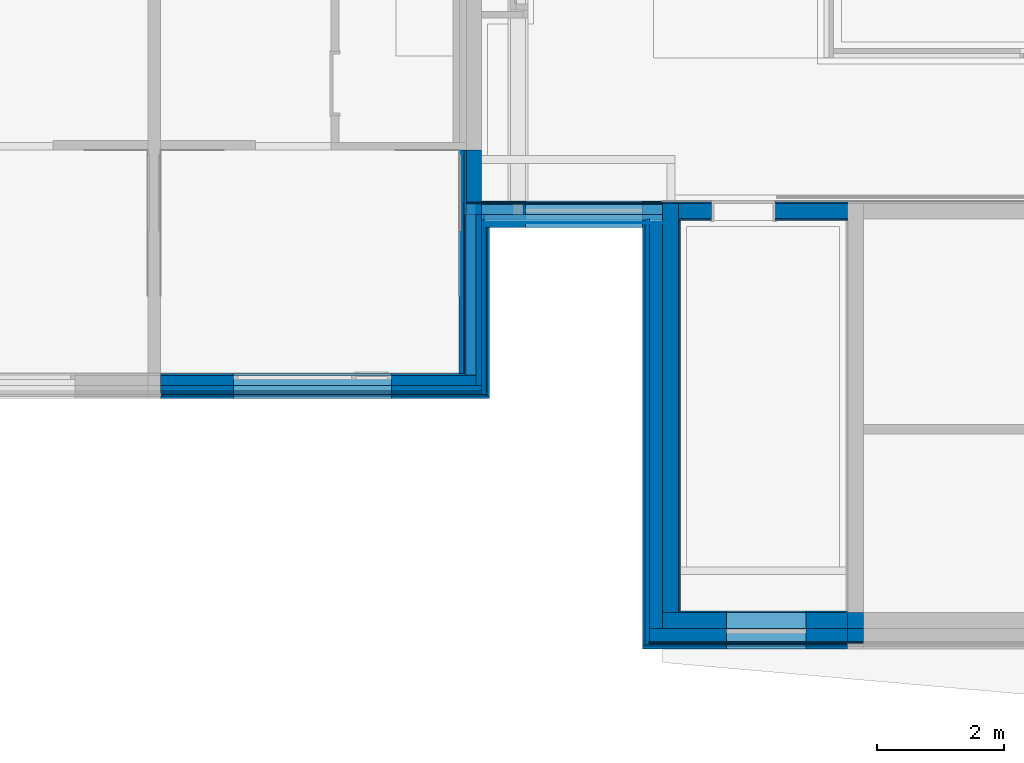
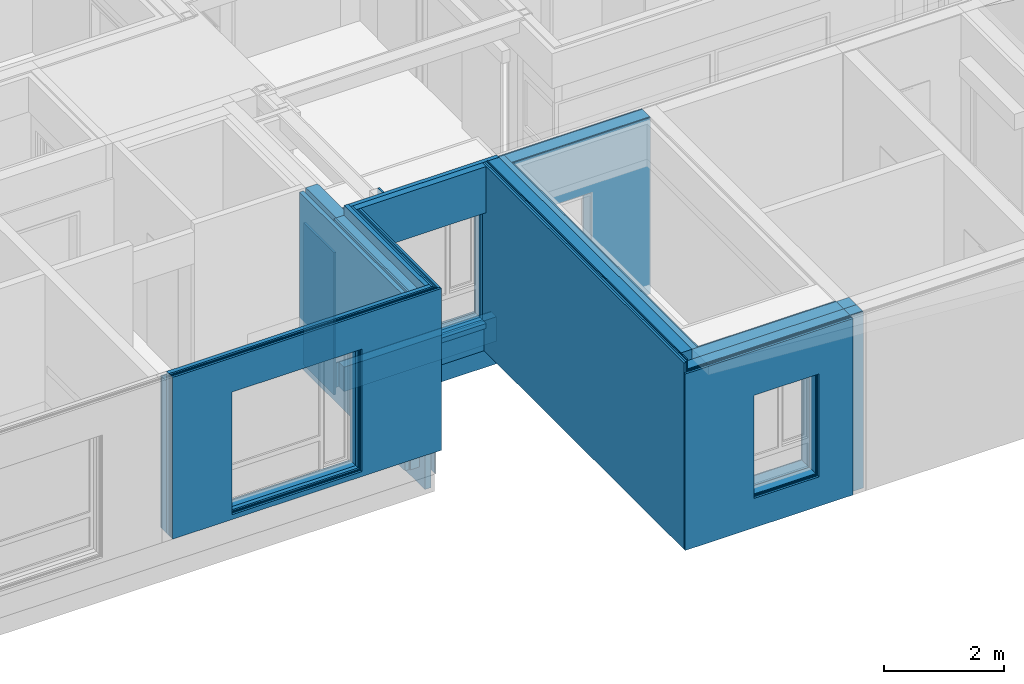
# One storey, part 21 of 207: 51 walls, 22 openings.
"""IFC4 building model written with IfcOpenShell, lengths in metres."""

from ifc_helpers import new_model, entity, si_unit, converted_unit, derived_unit, frame, frame_2d, origin, origin_with_axes, place, context, subcontext, project, spatial, polyline, rectangle, outline, extrude, material, element, save


model = new_model("IFC4")

# Units and contexts
model_context = context("Model", 3, precision=1e-05, world=origin())
body_context = subcontext(model_context, "Body", "Model", "MODEL_VIEW")
ifc_project = project(units=[si_unit("LENGTHUNIT", "METRE"), si_unit("AREAUNIT", "SQUARE_METRE"), si_unit("VOLUMEUNIT", "CUBIC_METRE"), si_unit("MASSUNIT", "GRAM", prefix="KILO"), converted_unit("PLANEANGLEUNIT", "DEGREE", entity("IfcPlaneAngleMeasure", 0.0174532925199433), si_unit("PLANEANGLEUNIT", "RADIAN"), dimensions=[0, 0, 0, 0, 0, 0, 0]), derived_unit("THERMALTRANSMITTANCEUNIT", [(si_unit("POWERUNIT", "WATT"), 1), (si_unit("THERMODYNAMICTEMPERATUREUNIT", "KELVIN"), -1), (si_unit("LENGTHUNIT", "METRE"), -2)]), derived_unit("VOLUMETRICFLOWRATEUNIT", [(si_unit("LENGTHUNIT", "METRE"), 3), (converted_unit("TIMEUNIT", "hour", entity("IfcTimeMeasure", 3600.0), si_unit("TIMEUNIT", "SECOND"), dimensions=[0, 0, 1, 0, 0, 0, 0]), -1), (si_unit("LENGTHUNIT", "METRE"), -1)])], contexts=[model_context])

# Site, building, storey
site_placement = place(None, origin())
site = spatial("IfcSite", under=ifc_project, at=site_placement, Name="Psychiatrie Neubau Wunstorf", CompositionType="ELEMENT")
building_placement = place(site_placement, origin())
building = spatial("IfcBuilding", under=site, at=building_placement, Name="Neubau H2 Stationsgebäude", CompositionType="ELEMENT")
storey_placement = place(building_placement, frame((0.0, 0.0, -0.2)))
storey = spatial("IfcBuildingStorey", under=building, at=storey_placement, Name="H2 Ebene 0", CompositionType="ELEMENT", Elevation=-0.2)

# Walls
ifc_material_1 = material(Name="WA-LB")
wall_1_placement = place(storey_placement, frame((34.889, 0.340499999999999, 0.5), z_axis=(0.0, 0.0, 1.0), x_axis=(0.0, -1.0, 0.0)))
element("IfcWall", 1, at=wall_1_placement, inside=storey, material=ifc_material_1, context=body_context, shape_type="SweptSolid", body=[
    extrude(rectangle(XDim=2.50449999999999, YDim=0.036, at=frame_2d((1.25224999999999, 0.018), x_axis=(1.0, 0.0))), origin_with_axes(), (0.0, 0.0, 1.0), 3.1),
])
ifc_material_2 = material(Name="WA-HD")
wall_2_placement = place(storey_placement, frame((34.925, 0.340499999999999, 0.5), z_axis=(0.0, 0.0, 1.0), x_axis=(0.0, -1.0, 0.0)))
element("IfcWall", 2, at=wall_2_placement, inside=storey, material=ifc_material_2, context=body_context, shape_type="SweptSolid", body=[
    extrude(rectangle(XDim=2.54049999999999, YDim=0.16, at=frame_2d((1.27024999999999, 0.08), x_axis=(1.0, 0.0))), origin_with_axes(), (0.0, 0.0, 1.0), 3.1),
])
ifc_material_3 = material(Name="WA-DL")
wall_3_placement = place(storey_placement, frame((35.085, 0.3405, 0.5), z_axis=(0.0, 0.0, 1.0), x_axis=(0.0, -1.0, 0.0)))
element("IfcWall", 3, at=wall_3_placement, inside=storey, material=ifc_material_3, context=body_context, shape_type="SweptSolid", body=[
    extrude(rectangle(XDim=2.70049999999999, YDim=0.08, at=frame_2d((1.35024999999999, 0.04), x_axis=(1.0, 0.0))), origin_with_axes(), (0.0, 0.0, 1.0), 3.3),
])
ifc_material_4 = material(Name="WA-TP")
wall_4_placement = place(storey_placement, frame((35.165, 0.260500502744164, 0.5), z_axis=(0.0, 0.0, 1.0), x_axis=(0.0, -1.0, 0.0)))
element("IfcWall", 4, at=wall_4_placement, inside=storey, material=ifc_material_4, context=body_context, shape_type="SweptSolid", body=[
    extrude(rectangle(XDim=2.70050050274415, YDim=0.036, at=frame_2d((1.35025025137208, 0.018), x_axis=(1.0, 0.0))), origin_with_axes(), (0.0, 0.0, 1.0), 3.3),
])
ifc_material_5 = material(Name="WA-KL")
wall_5_placement = place(storey_placement, frame((35.201, 0.134500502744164, 0.5), z_axis=(0.0, 0.0, 1.0), x_axis=(0.0, -1.0, 0.0)))
element("IfcWall", 5, at=wall_5_placement, inside=storey, material=ifc_material_5, context=body_context, shape_type="SweptSolid", body=[
    extrude(rectangle(XDim=2.61050050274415, YDim=0.024, at=frame_2d((1.30525025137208, 0.012), x_axis=(1.0, 0.0))), origin_with_axes(), (0.0, 0.0, 1.0), 3.3),
])
ifc_material_6 = material(Name="WA-TL")
wall_6_placement = place(storey_placement, frame((35.225, 0.134500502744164, 0.5), z_axis=(0.0, 0.0, 1.0), x_axis=(0.0, -1.0, 0.0)))
element("IfcWall", 6, at=wall_6_placement, inside=storey, material=ifc_material_6, context=body_context, shape_type="SweptSolid", body=[
    extrude(rectangle(XDim=2.63450050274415, YDim=0.024, at=frame_2d((1.31725025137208, 0.012), x_axis=(1.0, 0.0))), origin_with_axes(), (0.0, 0.0, 1.0), 3.3),
])
ifc_material_7 = material(Name="WA-HS")
wall_7_placement = place(storey_placement, frame((35.249, 0.134500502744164, 0.5), z_axis=(0.0, 0.0, 1.0), x_axis=(0.0, -1.0, 0.0)))
element("IfcWall", 7, at=wall_7_placement, inside=storey, material=ifc_material_7, context=body_context, shape_type="SweptSolid", body=[
    extrude(rectangle(XDim=2.65850050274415, YDim=0.042, at=frame_2d((1.32925025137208, 0.021), x_axis=(1.0, 0.0))), origin_with_axes(), (0.0, 0.0, 1.0), 3.3),
])

# Wall, opening
ifc_material_8 = material(Name="WA-LB")
wall_8_placement = place(storey_placement, frame((38.03, 0.549, 0.5), z_axis=(0.0, 0.0, 1.0), x_axis=(-1.0, 0.0, 0.0)))
wall_8 = element("IfcWall", 8, at=wall_8_placement, inside=storey, material=ifc_material_8, context=body_context, shape_type="SweptSolid", body=[
    extrude(rectangle(XDim=2.8655, YDim=0.0125, at=frame_2d((1.43275, 0.00625), x_axis=(1.0, 0.0))), origin_with_axes(), (0.0, 0.0, 1.0), 3.1),
])
opening_1_placement = place(wall_8_placement, frame((2.16900498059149, 0.0125, 0.1), z_axis=(0.0, -1.0, 0.0), x_axis=(0.0, 0.0, 1.0)))
element("IfcOpeningElement", 9, at=opening_1_placement, cuts=wall_8, Name="Fensteröffnung", ObjectType="Opening", context=body_context, shape_type="SweptSolid", body=[
    extrude(outline(polyline([(2.26, 1.848005), (2.26, 0.0), (0.0, 0.0), (0.0, 1.848005), (2.26, 1.848005)])), origin_with_axes(), (0.0, 0.0, 1.0), 0.0125),
])

ifc_material_9 = material(Name="WA-LB")
wall_9_placement = place(storey_placement, frame((38.03, 0.5365, 0.5), z_axis=(0.0, 0.0, 1.0), x_axis=(-1.0, 0.0, 0.0)))
wall_9 = element("IfcWall", 10, at=wall_9_placement, inside=storey, material=ifc_material_9, context=body_context, shape_type="SweptSolid", body=[
    extrude(rectangle(XDim=2.8655, YDim=0.036, at=frame_2d((1.43275, 0.018), x_axis=(1.0, 0.0))), origin_with_axes(), (0.0, 0.0, 1.0), 3.1),
])
opening_2_placement = place(wall_9_placement, frame((2.16900498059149, 0.036, 0.1), z_axis=(0.0, -1.0, 0.0), x_axis=(0.0, 0.0, 1.0)))
element("IfcOpeningElement", 11, at=opening_2_placement, cuts=wall_9, Name="Fensteröffnung", ObjectType="Opening", context=body_context, shape_type="SweptSolid", body=[
    extrude(outline(polyline([(2.26, 1.848005), (2.26, 0.0), (0.0, 0.0), (0.0, 1.848005), (2.26, 1.848005)])), origin_with_axes(), (0.0, 0.0, 1.0), 0.036),
])

ifc_material_10 = material(Name="WA-HD")
wall_10_placement = place(storey_placement, frame((38.03, 0.5005, 0.5), z_axis=(0.0, 0.0, 1.0), x_axis=(-1.0, 0.0, 0.0)))
wall_10 = element("IfcWall", 12, at=wall_10_placement, inside=storey, material=ifc_material_10, context=body_context, shape_type="SweptSolid", body=[
    extrude(rectangle(XDim=2.8655, YDim=0.16, at=frame_2d((1.43275, 0.08), x_axis=(1.0, 0.0))), origin_with_axes(), (0.0, 0.0, 1.0), 3.1),
])
opening_3_placement = place(wall_10_placement, frame((2.16900498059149, 0.16, 0.1), z_axis=(0.0, -1.0, 0.0), x_axis=(0.0, 0.0, 1.0)))
element("IfcOpeningElement", 13, at=opening_3_placement, cuts=wall_10, Name="Fensteröffnung", ObjectType="Opening", context=body_context, shape_type="SweptSolid", body=[
    extrude(outline(polyline([(2.26, 1.848005), (2.26, 0.0), (0.0, 0.0), (0.0, 1.848005), (2.26, 1.848005)])), origin_with_axes(), (0.0, 0.0, 1.0), 0.16),
])

ifc_material_11 = material(Name="WA-DL")
wall_11_placement = place(storey_placement, frame((38.03, 0.3405, 0.5), z_axis=(0.0, 0.0, 1.0), x_axis=(-1.0, 0.0, 0.0)))
wall_11 = element("IfcWall", 14, at=wall_11_placement, inside=storey, material=ifc_material_11, context=body_context, shape_type="SweptSolid", body=[
    extrude(outline(polyline([(-2.865, -0.0799994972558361), (-0.69599501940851, -0.0799994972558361), (-0.69599501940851, -0.0794958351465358), (-0.49999501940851, -0.0794958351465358), (-0.49999501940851, -0.0799994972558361), (0.0, -0.0799994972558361), (0.0, 0.0), (-2.634, 0.0), (-2.634, -0.0144994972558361), (-2.655, -0.0144994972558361), (-2.655, 0.0), (-2.865, 0.0), (-2.865, -0.0799994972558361)])), frame((2.865, 0.0799994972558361, 0.0), z_axis=(0.0, 0.0, 1.0), x_axis=(1.0, 0.0, 0.0)), (0.0, 0.0, 1.0), 3.3),
])
opening_4_placement = place(wall_11_placement, frame((2.16900498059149, 0.0799994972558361, 0.1), z_axis=(0.0, -1.0, 0.0), x_axis=(0.0, 0.0, 1.0)))
element("IfcOpeningElement", 15, at=opening_4_placement, cuts=wall_11, Name="Fensteröffnung", ObjectType="Opening", context=body_context, shape_type="SweptSolid", body=[
    extrude(outline(polyline([(2.26, 1.848005), (2.26, 0.0), (0.0, 0.0), (0.0, 1.848005), (2.26, 1.848005)])), origin_with_axes(), (0.0, 0.0, 1.0), 0.0799994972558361),
])

ifc_material_12 = material(Name="WA-LB")
wall_12_placement = place(storey_placement, frame((37.7090000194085, 0.260500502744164, 0.5), z_axis=(0.0, 0.0, 1.0), x_axis=(-1.0, 0.0, 0.0)))
wall_12 = element("IfcWall", 16, at=wall_12_placement, inside=storey, material=ifc_material_12, context=body_context, shape_type="SweptSolid", body=[
    extrude(rectangle(XDim=2.50800001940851, YDim=0.126, at=frame_2d((1.25400000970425, 0.063), x_axis=(1.0, 0.0))), origin_with_axes(), (0.0, 0.0, 1.0), 3.3),
])
opening_5_placement = place(wall_12_placement, frame((1.848005, 0.126, 0.1), z_axis=(0.0, -1.0, 0.0), x_axis=(0.0, 0.0, 1.0)))
element("IfcOpeningElement", 17, at=opening_5_placement, cuts=wall_12, Name="Fensteröffnung", ObjectType="Opening", context=body_context, shape_type="SweptSolid", body=[
    extrude(outline(polyline([(2.26, 1.848005), (2.26, 0.0), (0.0, 0.0), (0.0, 1.848005), (2.26, 1.848005)])), origin_with_axes(), (0.0, 0.0, 1.0), 0.126),
])

# Wall
ifc_material_13 = material(Name="WI-GKF")
wall_13_placement = place(storey_placement, frame((35.8249950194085, 0.4999963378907, 0.5), z_axis=(0.0, 0.0, 1.0), x_axis=(0.0, -1.0, 0.0)))
element("IfcWall", 18, at=wall_13_placement, inside=storey, material=ifc_material_13, context=body_context, shape_type="SweptSolid", body=[
    extrude(rectangle(XDim=0.16, YDim=0.036, at=frame_2d((0.08, 0.018), x_axis=(1.0, 0.0))), origin_with_axes(), (0.0, 0.0, 1.0), 3.3),
])

# Wall, opening
ifc_material_14 = material(Name="WA-LB")
wall_14_placement = place(storey_placement, frame((34.925, -2.16399999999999, 0.5), z_axis=(0.0, 0.0, 1.0), x_axis=(-1.0, 9.42481556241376e-17, 0.0)))
wall_14 = element("IfcWall", 19, at=wall_14_placement, inside=storey, material=ifc_material_14, context=body_context, shape_type="SweptSolid", body=[
    extrude(rectangle(XDim=4.825, YDim=0.036, at=frame_2d((2.4125, 0.018), x_axis=(1.0, 0.0))), origin_with_axes(), (0.0, 0.0, 1.0), 3.1),
])
opening_6_placement = place(wall_14_placement, frame((1.175, 0.0, 0.1), z_axis=(0.0, 1.0, 0.0), x_axis=(0.0, 0.0, 1.0)))
element("IfcOpeningElement", 20, at=opening_6_placement, cuts=wall_14, Name="Fensteröffnung", ObjectType="Opening", context=body_context, shape_type="SweptSolid", body=[
    extrude(outline(polyline([(2.5, 2.5), (2.5, 0.0), (0.0, 0.0), (0.0, 2.5), (2.5, 2.5)])), origin_with_axes(), (0.0, 0.0, 1.0), 0.036),
])

ifc_material_15 = material(Name="WA-HD")
wall_15_placement = place(storey_placement, frame((35.085, -2.19999999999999, 0.5), z_axis=(0.0, 0.0, 1.0), x_axis=(-1.0, 9.1223139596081e-17, 0.0)))
wall_15 = element("IfcWall", 21, at=wall_15_placement, inside=storey, material=ifc_material_15, context=body_context, shape_type="SweptSolid", body=[
    extrude(rectangle(XDim=4.985, YDim=0.16, at=frame_2d((2.4925, 0.08), x_axis=(1.0, 0.0))), origin_with_axes(), (0.0, 0.0, 1.0), 3.1),
])
opening_7_placement = place(wall_15_placement, frame((1.335, 0.0, 0.1), z_axis=(0.0, 1.0, 0.0), x_axis=(0.0, 0.0, 1.0)))
element("IfcOpeningElement", 22, at=opening_7_placement, cuts=wall_15, Name="Fensteröffnung", ObjectType="Opening", context=body_context, shape_type="SweptSolid", body=[
    extrude(outline(polyline([(2.5, 2.5), (2.5, 0.0), (0.0, 0.0), (0.0, 2.5), (2.5, 2.5)])), origin_with_axes(), (0.0, 0.0, 1.0), 0.16),
])

ifc_material_16 = material(Name="WA-DL")
wall_16_placement = place(storey_placement, frame((35.165, -2.35999999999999, 0.5), z_axis=(0.0, 0.0, 1.0), x_axis=(-1.0, 8.97823002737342e-17, 0.0)))
wall_16 = element("IfcWall", 23, at=wall_16_placement, inside=storey, material=ifc_material_16, context=body_context, shape_type="SweptSolid", body=[
    extrude(rectangle(XDim=5.065, YDim=0.08, at=frame_2d((2.5325, 0.04), x_axis=(1.0, 0.0))), origin_with_axes(), (0.0, 0.0, 1.0), 3.3),
])
opening_8_placement = place(wall_16_placement, frame((1.415, 0.0, 0.1), z_axis=(0.0, 1.0, 0.0), x_axis=(0.0, 0.0, 1.0)))
element("IfcOpeningElement", 24, at=opening_8_placement, cuts=wall_16, Name="Fensteröffnung", ObjectType="Opening", context=body_context, shape_type="SweptSolid", body=[
    extrude(outline(polyline([(2.5, 2.5), (2.5, 0.0), (0.0, 0.0), (0.0, 2.5), (2.5, 2.5)])), origin_with_axes(), (0.0, 0.0, 1.0), 0.08),
])

ifc_material_17 = material(Name="WA-TP")
wall_17_placement = place(storey_placement, frame((35.201, -2.43999999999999, 0.5), z_axis=(0.0, 0.0, 1.0), x_axis=(-1.0, 8.91486671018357e-17, 0.0)))
wall_17 = element("IfcWall", 25, at=wall_17_placement, inside=storey, material=ifc_material_17, context=body_context, shape_type="SweptSolid", body=[
    extrude(rectangle(XDim=5.101, YDim=0.036, at=frame_2d((2.5505, 0.018), x_axis=(1.0, 0.0))), origin_with_axes(), (0.0, 0.0, 1.0), 3.3),
])
opening_9_placement = place(wall_17_placement, frame((1.451, 0.0, 0.1), z_axis=(0.0, 1.0, 0.0), x_axis=(0.0, 0.0, 1.0)))
element("IfcOpeningElement", 26, at=opening_9_placement, cuts=wall_17, Name="Fensteröffnung", ObjectType="Opening", context=body_context, shape_type="SweptSolid", body=[
    extrude(outline(polyline([(2.5, 2.5), (2.5, 0.0), (0.0, 0.0), (0.0, 2.5), (2.5, 2.5)])), origin_with_axes(), (0.0, 0.0, 1.0), 0.036),
])

ifc_material_18 = material(Name="WA-KL")
wall_18_placement = place(storey_placement, frame((35.225, -2.47599999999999, 0.5), z_axis=(0.0, 0.0, 1.0), x_axis=(-1.0, 8.8731190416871e-17, 0.0)))
wall_18 = element("IfcWall", 27, at=wall_18_placement, inside=storey, material=ifc_material_18, context=body_context, shape_type="SweptSolid", body=[
    extrude(rectangle(XDim=5.125, YDim=0.024, at=frame_2d((2.5625, 0.012), x_axis=(1.0, 0.0))), origin_with_axes(), (0.0, 0.0, 1.0), 3.3),
])
opening_10_placement = place(wall_18_placement, frame((1.475, 0.0, 0.1), z_axis=(0.0, 1.0, 0.0), x_axis=(0.0, 0.0, 1.0)))
element("IfcOpeningElement", 28, at=opening_10_placement, cuts=wall_18, Name="Fensteröffnung", ObjectType="Opening", context=body_context, shape_type="SweptSolid", body=[
    extrude(outline(polyline([(2.5, 2.5), (2.5, 0.0), (0.0, 0.0), (0.0, 2.5), (2.5, 2.5)])), origin_with_axes(), (0.0, 0.0, 1.0), 0.024),
])

ifc_material_19 = material(Name="WA-TL")
wall_19_placement = place(storey_placement, frame((35.249, -2.49999999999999, 0.5), z_axis=(0.0, 0.0, 1.0), x_axis=(-1.0, 8.83176055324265e-17, 0.0)))
wall_19 = element("IfcWall", 29, at=wall_19_placement, inside=storey, material=ifc_material_19, context=body_context, shape_type="SweptSolid", body=[
    extrude(rectangle(XDim=5.149, YDim=0.024, at=frame_2d((2.5745, 0.012), x_axis=(1.0, 0.0))), origin_with_axes(), (0.0, 0.0, 1.0), 3.3),
])
opening_11_placement = place(wall_19_placement, frame((1.499, 0.0, 0.1), z_axis=(0.0, 1.0, 0.0), x_axis=(0.0, 0.0, 1.0)))
element("IfcOpeningElement", 30, at=opening_11_placement, cuts=wall_19, Name="Fensteröffnung", ObjectType="Opening", context=body_context, shape_type="SweptSolid", body=[
    extrude(outline(polyline([(2.5, 2.5), (2.5, 0.0), (0.0, 0.0), (0.0, 2.5), (2.5, 2.5)])), origin_with_axes(), (0.0, 0.0, 1.0), 0.024),
])

ifc_material_20 = material(Name="WA-HS")
wall_20_placement = place(storey_placement, frame((35.291, -2.52399999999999, 0.5), z_axis=(0.0, 0.0, 1.0), x_axis=(-1.0, 8.76030342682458e-17, 0.0)))
wall_20 = element("IfcWall", 31, at=wall_20_placement, inside=storey, material=ifc_material_20, context=body_context, shape_type="SweptSolid", body=[
    extrude(rectangle(XDim=5.191, YDim=0.042, at=frame_2d((2.5955, 0.021), x_axis=(1.0, 0.0))), origin_with_axes(), (0.0, 0.0, 1.0), 3.3),
])
opening_12_placement = place(wall_20_placement, frame((1.541, 0.0, 0.1), z_axis=(0.0, 1.0, 0.0), x_axis=(0.0, 0.0, 1.0)))
element("IfcOpeningElement", 32, at=opening_12_placement, cuts=wall_20, Name="Fensteröffnung", ObjectType="Opening", context=body_context, shape_type="SweptSolid", body=[
    extrude(outline(polyline([(2.5, 2.5), (2.5, 0.0), (0.0, 0.0), (0.0, 2.5), (2.5, 2.5)])), origin_with_axes(), (0.0, 0.0, 1.0), 0.042),
])

# Walls
ifc_material_21 = material(Name="WA-STB")
wall_21_placement = place(storey_placement, frame((41.2, -5.945000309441, 0.0), z_axis=(0.0, 0.0, 1.0), x_axis=(-1.0, 0.0, 0.0)))
element("IfcWall", 33, at=wall_21_placement, inside=storey, material=ifc_material_21, context=body_context, shape_type="SweptSolid", body=[
    extrude(rectangle(XDim=0.25, YDim=0.25, at=frame_2d((0.125, 0.125), x_axis=(1.0, 0.0))), origin_with_axes(), (0.0, 0.0, 1.0), 3.6),
])
ifc_material_22 = material(Name="WA-DL")
wall_22_placement = place(storey_placement, frame((41.2, -6.195000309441, 0.0), z_axis=(0.0, 0.0, 1.0), x_axis=(-1.0, 0.0, 0.0)))
element("IfcWall", 34, at=wall_22_placement, inside=storey, material=ifc_material_22, context=body_context, shape_type="SweptSolid", body=[
    extrude(rectangle(XDim=0.25, YDim=0.21, at=frame_2d((0.125, 0.105), x_axis=(1.0, 0.0))), origin_with_axes(), (0.0, 0.0, 1.0), 3.6),
])
ifc_material_23 = material(Name="WA-LB")
wall_23_placement = place(storey_placement, frame((41.2, -6.405000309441, 0.0), z_axis=(0.0, 0.0, 1.0), x_axis=(-1.0, 0.0, 0.0)))
element("IfcWall", 35, at=wall_23_placement, inside=storey, material=ifc_material_23, context=body_context, shape_type="SweptSolid", body=[
    extrude(rectangle(XDim=0.25, YDim=0.021, at=frame_2d((0.125, 0.0105), x_axis=(1.0, 0.0))), origin_with_axes(), (0.0, 0.0, 1.0), 3.6),
])
ifc_material_24 = material(Name="WI-LB")
wall_24_placement = place(storey_placement, frame((38.304, -5.921000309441, 0.0), z_axis=(0.0, 0.0, 1.0), x_axis=(0.0, 1.0, 0.0)))
element("IfcWall", 36, at=wall_24_placement, inside=storey, material=ifc_material_24, context=body_context, shape_type="SweptSolid", body=[
    extrude(rectangle(XDim=6.172000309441, YDim=0.024, at=frame_2d((3.0860001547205, 0.012), x_axis=(1.0, 0.0))), origin_with_axes(), (0.0, 0.0, 1.0), 3.6),
])
ifc_material_25 = material(Name="WA-STB")
wall_25_placement = place(storey_placement, frame((38.28, -5.945000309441, 0.0), z_axis=(0.0, 0.0, 1.0), x_axis=(0.0, 1.0, 0.0)))
element("IfcWall", 37, at=wall_25_placement, inside=storey, material=ifc_material_25, context=body_context, shape_type="SweptSolid", body=[
    extrude(rectangle(XDim=6.470000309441, YDim=0.25, at=frame_2d((3.2350001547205, 0.125), x_axis=(1.0, 0.0))), origin_with_axes(), (0.0, 0.0, 1.0), 3.6),
])
ifc_material_26 = material(Name="WA-DL")
wall_26_placement = place(storey_placement, frame((38.03, -6.195000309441, 0.0), z_axis=(0.0, 0.0, 1.0), x_axis=(0.0, 1.0, 0.0)))
element("IfcWall", 38, at=wall_26_placement, inside=storey, material=ifc_material_26, context=body_context, shape_type="SweptSolid", body=[
    extrude(outline(polyline([(0.0, -0.21), (6.446000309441, -0.21), (6.45550081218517, -0.21), (6.45550081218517, 0.0), (0.0, 0.0), (0.0, -0.21)])), frame((0.0, 0.21, 0.0), z_axis=(0.0, 0.0, 1.0), x_axis=(1.0, 0.0, 0.0)), (0.0, 0.0, 1.0), 3.8),
])
ifc_material_27 = material(Name="WA-LB")
wall_27_placement = place(storey_placement, frame((37.82, -6.405000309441, 0.5), z_axis=(0.0, 0.0, 1.0), x_axis=(0.0, 1.0, 0.0)))
element("IfcWall", 39, at=wall_27_placement, inside=storey, material=ifc_material_27, context=body_context, shape_type="SweptSolid", body=[
    extrude(outline(polyline([(0.0, -0.021), (6.66550081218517, -0.021), (6.680000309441, -0.021), (6.680000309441, 0.0), (0.0, 0.0), (0.0, -0.021)])), frame((0.0, 0.021, 0.0), z_axis=(0.0, 0.0, 1.0), x_axis=(1.0, 0.0, 0.0)), (0.0, 0.0, 1.0), 3.3),
])
ifc_material_28 = material(Name="WA-KL")
wall_28_placement = place(storey_placement, frame((37.799, -6.426000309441, 0.0), z_axis=(0.0, 0.0, 1.0), x_axis=(0.0, 1.0, 0.0)))
element("IfcWall", 40, at=wall_28_placement, inside=storey, material=ifc_material_28, context=body_context, shape_type="SweptSolid", body=[
    extrude(rectangle(XDim=6.68650081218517, YDim=0.015, at=frame_2d((3.34325040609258, 0.0075), x_axis=(1.0, 0.0))), origin_with_axes(), (0.0, 0.0, 1.0), 3.8),
])
ifc_material_29 = material(Name="WA-TL")
wall_29_placement = place(storey_placement, frame((37.784, -6.450000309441, 0.0), z_axis=(0.0, 0.0, 1.0), x_axis=(0.0, 1.0, 0.0)))
element("IfcWall", 41, at=wall_29_placement, inside=storey, material=ifc_material_29, context=body_context, shape_type="SweptSolid", body=[
    extrude(rectangle(XDim=6.71050081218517, YDim=0.033, at=frame_2d((3.35525040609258, 0.0165), x_axis=(1.0, 0.0))), origin_with_axes(), (0.0, 0.0, 1.0), 3.8),
])
ifc_material_30 = material(Name="WA-HS")
wall_30_placement = place(storey_placement, frame((37.751, -6.474000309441, 0.0), z_axis=(0.0, 0.0, 1.0), x_axis=(0.0, 1.0, 0.0)))
element("IfcWall", 42, at=wall_30_placement, inside=storey, material=ifc_material_30, context=body_context, shape_type="SweptSolid", body=[
    extrude(outline(polyline([(0.0, -0.0419999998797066), (6.73450081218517, -0.0419999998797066), (6.73450081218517, -1.92882143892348e-08), (0.0, 0.0), (0.0, -0.0419999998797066)])), frame((0.0, 0.0419999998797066, 0.0), z_axis=(0.0, 0.0, 1.0), x_axis=(1.0, 0.0, 0.0)), (0.0, 0.0, 1.0), 3.8),
])

# Wall, opening
ifc_material_31 = material(Name="WI-LB")
wall_31_placement = place(storey_placement, frame((40.95, -5.921000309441, 0.0), z_axis=(0.0, 0.0, 1.0), x_axis=(-1.0, 0.0, 0.0)))
wall_31 = element("IfcWall", 43, at=wall_31_placement, inside=storey, material=ifc_material_31, context=body_context, shape_type="SweptSolid", body=[
    extrude(rectangle(XDim=2.66999999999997, YDim=0.024, at=frame_2d((1.33499999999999, 0.012), x_axis=(1.0, 0.0))), origin_with_axes(), (0.0, 0.0, 1.0), 3.6),
])
opening_13_placement = place(wall_31_placement, frame((1.91000000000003, 0.024, 0.6), z_axis=(0.0, -1.0, 0.0), x_axis=(0.0, 0.0, 1.0)))
element("IfcOpeningElement", 44, at=opening_13_placement, cuts=wall_31, Name="Fensteröffnung", ObjectType="Opening", context=body_context, shape_type="SweptSolid", body=[
    extrude(outline(polyline([(2.1, 1.25), (2.1, 0.0), (0.0, 0.0), (0.0, 1.25), (2.1, 1.25)])), origin_with_axes(), (0.0, 0.0, 1.0), 0.024),
])

ifc_material_32 = material(Name="WA-STB")
wall_32_placement = place(storey_placement, frame((40.95, -5.945000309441, 0.0), z_axis=(0.0, 0.0, 1.0), x_axis=(-1.0, 0.0, 0.0)))
wall_32 = element("IfcWall", 45, at=wall_32_placement, inside=storey, material=ifc_material_32, context=body_context, shape_type="SweptSolid", body=[
    extrude(rectangle(XDim=2.91999999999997, YDim=0.25, at=frame_2d((1.45999999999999, 0.125), x_axis=(1.0, 0.0))), origin_with_axes(), (0.0, 0.0, 1.0), 3.6),
])
opening_14_placement = place(wall_32_placement, frame((1.91000000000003, 0.25, 0.6), z_axis=(0.0, -1.0, 0.0), x_axis=(0.0, 0.0, 1.0)))
element("IfcOpeningElement", 46, at=opening_14_placement, cuts=wall_32, Name="Fensteröffnung", ObjectType="Opening", context=body_context, shape_type="SweptSolid", body=[
    extrude(outline(polyline([(2.1, 1.25), (2.1, 0.0), (0.0, 0.0), (0.0, 1.25), (2.1, 1.25)])), origin_with_axes(), (0.0, 0.0, 1.0), 0.25),
])

ifc_material_33 = material(Name="WA-DL")
wall_33_placement = place(storey_placement, frame((40.95, -6.195000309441, 0.0), z_axis=(0.0, 0.0, 1.0), x_axis=(-1.0, 0.0, 0.0)))
wall_33 = element("IfcWall", 47, at=wall_33_placement, inside=storey, material=ifc_material_33, context=body_context, shape_type="SweptSolid", body=[
    extrude(rectangle(XDim=3.12999999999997, YDim=0.21, at=frame_2d((1.56499999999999, 0.105), x_axis=(1.0, 0.0))), origin_with_axes(), (0.0, 0.0, 1.0), 3.6),
])
opening_15_placement = place(wall_33_placement, frame((1.91000000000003, 0.21, 0.6), z_axis=(0.0, -1.0, 0.0), x_axis=(0.0, 0.0, 1.0)))
element("IfcOpeningElement", 48, at=opening_15_placement, cuts=wall_33, Name="Fensteröffnung", ObjectType="Opening", context=body_context, shape_type="SweptSolid", body=[
    extrude(outline(polyline([(2.1, 1.25), (2.1, 0.0), (0.0, 0.0), (0.0, 1.25), (2.1, 1.25)])), origin_with_axes(), (0.0, 0.0, 1.0), 0.21),
])

ifc_material_34 = material(Name="WA-LB")
wall_34_placement = place(storey_placement, frame((40.95, -6.405000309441, 0.0), z_axis=(0.0, 0.0, 1.0), x_axis=(-1.0, 0.0, 0.0)))
wall_34 = element("IfcWall", 49, at=wall_34_placement, inside=storey, material=ifc_material_34, context=body_context, shape_type="SweptSolid", body=[
    extrude(rectangle(XDim=3.15099999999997, YDim=0.021, at=frame_2d((1.57549999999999, 0.0105), x_axis=(1.0, 0.0))), origin_with_axes(), (0.0, 0.0, 1.0), 3.6),
])
opening_16_placement = place(wall_34_placement, frame((1.91000000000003, 0.021, 0.6), z_axis=(0.0, -1.0, 0.0), x_axis=(0.0, 0.0, 1.0)))
element("IfcOpeningElement", 50, at=opening_16_placement, cuts=wall_34, Name="Fensteröffnung", ObjectType="Opening", context=body_context, shape_type="SweptSolid", body=[
    extrude(outline(polyline([(2.1, 1.25), (2.1, 0.0), (0.0, 0.0), (0.0, 1.25), (2.1, 1.25)])), origin_with_axes(), (0.0, 0.0, 1.0), 0.021),
])

ifc_material_35 = material(Name="WA-KL")
wall_35_placement = place(storey_placement, frame((40.95, -6.426000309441, 0.0), z_axis=(0.0, 0.0, 1.0), x_axis=(-1.0, 0.0, 0.0)))
wall_35 = element("IfcWall", 51, at=wall_35_placement, inside=storey, material=ifc_material_35, context=body_context, shape_type="SweptSolid", body=[
    extrude(rectangle(XDim=3.16599999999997, YDim=0.024, at=frame_2d((1.58299999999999, 0.012), x_axis=(1.0, 0.0))), origin_with_axes(), (0.0, 0.0, 1.0), 3.6),
])
opening_17_placement = place(wall_35_placement, frame((1.91000000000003, 0.024, 0.6), z_axis=(0.0, -1.0, 0.0), x_axis=(0.0, 0.0, 1.0)))
element("IfcOpeningElement", 52, at=opening_17_placement, cuts=wall_35, Name="Fensteröffnung", ObjectType="Opening", context=body_context, shape_type="SweptSolid", body=[
    extrude(outline(polyline([(2.1, 1.25), (2.1, 0.0), (0.0, 0.0), (0.0, 1.25), (2.1, 1.25)])), origin_with_axes(), (0.0, 0.0, 1.0), 0.024),
])

ifc_material_36 = material(Name="WA-TL")
wall_36_placement = place(storey_placement, frame((40.95, -6.450000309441, 0.0), z_axis=(0.0, 0.0, 1.0), x_axis=(-1.0, 0.0, 0.0)))
wall_36 = element("IfcWall", 53, at=wall_36_placement, inside=storey, material=ifc_material_36, context=body_context, shape_type="SweptSolid", body=[
    extrude(rectangle(XDim=3.19899999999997, YDim=0.024, at=frame_2d((1.59949999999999, 0.012), x_axis=(1.0, 0.0))), origin_with_axes(), (0.0, 0.0, 1.0), 3.6),
])
opening_18_placement = place(wall_36_placement, frame((1.91000000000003, 0.024, 0.6), z_axis=(0.0, -1.0, 0.0), x_axis=(0.0, 0.0, 1.0)))
element("IfcOpeningElement", 54, at=opening_18_placement, cuts=wall_36, Name="Fensteröffnung", ObjectType="Opening", context=body_context, shape_type="SweptSolid", body=[
    extrude(outline(polyline([(2.1, 1.25), (2.1, 0.0), (0.0, 0.0), (0.0, 1.25), (2.1, 1.25)])), origin_with_axes(), (0.0, 0.0, 1.0), 0.024),
])

ifc_material_37 = material(Name="WA-HS")
wall_37_placement = place(storey_placement, frame((40.95, -6.474000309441, 0.0), z_axis=(0.0, 0.0, 1.0), x_axis=(-1.0, 0.0, 0.0)))
wall_37 = element("IfcWall", 55, at=wall_37_placement, inside=storey, material=ifc_material_37, context=body_context, shape_type="SweptSolid", body=[
    extrude(rectangle(XDim=3.24099999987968, YDim=0.042, at=frame_2d((1.62049999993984, 0.021), x_axis=(1.0, 0.0))), origin_with_axes(), (0.0, 0.0, 1.0), 3.6),
])
opening_19_placement = place(wall_37_placement, frame((1.91000000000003, 0.042, 0.6), z_axis=(0.0, -1.0, 0.0), x_axis=(0.0, 0.0, 1.0)))
element("IfcOpeningElement", 56, at=opening_19_placement, cuts=wall_37, Name="Fensteröffnung", ObjectType="Opening", context=body_context, shape_type="SweptSolid", body=[
    extrude(outline(polyline([(2.1, 1.25), (2.1, 0.0), (0.0, 0.0), (0.0, 1.25), (2.1, 1.25)])), origin_with_axes(), (0.0, 0.0, 1.0), 0.042),
])

# Walls
ifc_material_38 = material(Name="WA-LB")
wall_38_placement = place(storey_placement, frame((34.889, 0.536002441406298, 0.0), z_axis=(0.0, 0.0, 1.0), x_axis=(0.0, -1.0, 0.0)))
element("IfcWall", 57, at=wall_38_placement, inside=storey, material=ifc_material_38, context=body_context, shape_type="SweptSolid", body=[
    extrude(rectangle(XDim=2.70000244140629, YDim=0.021, at=frame_2d((1.35000122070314, 0.0105), x_axis=(1.0, 0.0))), origin_with_axes(), (0.0, 0.0, 1.0), 0.5),
])
ifc_material_39 = material(Name="WA-STB")
wall_39_placement = place(storey_placement, frame((34.91, 0.515002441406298, 0.0), z_axis=(0.0, 0.0, 1.0), x_axis=(0.0, -1.0, 0.0)))
element("IfcWall", 58, at=wall_39_placement, inside=storey, material=ifc_material_39, context=body_context, shape_type="SweptSolid", body=[
    extrude(rectangle(XDim=2.70000244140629, YDim=0.175, at=frame_2d((1.35000122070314, 0.0875), x_axis=(1.0, 0.0))), origin_with_axes(), (0.0, 0.0, 1.0), 0.5),
])
ifc_material_40 = material(Name="WA-DE")
wall_40_placement = place(storey_placement, frame((35.085, 0.3400024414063, -0.36), z_axis=(0.0, 0.0, 1.0), x_axis=(0.0, -1.0, 0.0)))
element("IfcWall", 59, at=wall_40_placement, inside=storey, material=ifc_material_40, context=body_context, shape_type="SweptSolid", body=[
    extrude(rectangle(XDim=2.70000244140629, YDim=0.12, at=frame_2d((1.35000122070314, 0.06), x_axis=(1.0, 0.0))), origin_with_axes(), (0.0, 0.0, 1.0), 0.86),
])
ifc_material_41 = material(Name="WA-LB")
wall_41_placement = place(storey_placement, frame((35.205, 0.2200024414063, 0.0), z_axis=(0.0, 0.0, 1.0), x_axis=(0.0, -1.0, 0.0)))
element("IfcWall", 60, at=wall_41_placement, inside=storey, material=ifc_material_41, context=body_context, shape_type="SweptSolid", body=[
    extrude(rectangle(XDim=2.70000244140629, YDim=0.015, at=frame_2d((1.35000122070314, 0.0075), x_axis=(1.0, 0.0))), origin_with_axes(), (0.0, 0.0, 1.0), 0.5),
])
ifc_material_42 = material(Name="WA-LB")
wall_42_placement = place(storey_placement, frame((38.03, 0.536002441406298, 0.0), z_axis=(0.0, 0.0, 1.0), x_axis=(-1.0, 0.0, 0.0)))
element("IfcWall", 61, at=wall_42_placement, inside=storey, material=ifc_material_42, context=body_context, shape_type="SweptSolid", body=[
    extrude(rectangle(XDim=3.12, YDim=0.021, at=frame_2d((1.56, 0.0105), x_axis=(1.0, 0.0))), origin_with_axes(), (0.0, 0.0, 1.0), 0.5),
])
ifc_material_43 = material(Name="WA-STB")
wall_43_placement = place(storey_placement, frame((38.03, 0.515002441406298, 0.0), z_axis=(0.0, 0.0, 1.0), x_axis=(-1.0, 0.0, 0.0)))
element("IfcWall", 62, at=wall_43_placement, inside=storey, material=ifc_material_43, context=body_context, shape_type="SweptSolid", body=[
    extrude(rectangle(XDim=2.945, YDim=0.174999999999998, at=frame_2d((1.4725, 0.0874999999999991), x_axis=(1.0, 0.0))), origin_with_axes(), (0.0, 0.0, 1.0), 0.5),
])
ifc_material_44 = material(Name="WA-DE")
wall_44_placement = place(storey_placement, frame((38.03, 0.3400024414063, -0.36), z_axis=(0.0, 0.0, 1.0), x_axis=(-1.0, 0.0, 0.0)))
element("IfcWall", 63, at=wall_44_placement, inside=storey, material=ifc_material_44, context=body_context, shape_type="SweptSolid", body=[
    extrude(rectangle(XDim=2.825, YDim=0.12, at=frame_2d((1.4125, 0.06), x_axis=(1.0, 0.0))), origin_with_axes(), (0.0, 0.0, 1.0), 0.86),
])
ifc_material_45 = material(Name="WA-LB")
wall_45_placement = place(storey_placement, frame((38.03, 0.2200024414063, 0.0), z_axis=(0.0, 0.0, 1.0), x_axis=(-1.0, 0.0, 0.0)))
element("IfcWall", 64, at=wall_45_placement, inside=storey, material=ifc_material_45, context=body_context, shape_type="SweptSolid", body=[
    extrude(rectangle(XDim=2.81, YDim=0.015, at=frame_2d((1.405, 0.00750000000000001), x_axis=(1.0, 0.0))), origin_with_axes(), (0.0, 0.0, 1.0), 0.5),
])
ifc_material_46 = material(Name="WI-HW 60")
wall_46_placement = place(storey_placement, frame((35.1645, 0.3405, 0.0), z_axis=(0.0, 0.0, 1.0), x_axis=(0.0, 1.0, 0.0)))
element("IfcWall", 65, at=wall_46_placement, inside=storey, material=ifc_material_46, context=body_context, shape_type="SweptSolid", body=[
    extrude(rectangle(XDim=1.01824963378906, YDim=0.232, at=frame_2d((0.509124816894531, 0.116), x_axis=(1.0, 0.0))), origin_with_axes(), (0.0, 0.0, 1.0), 3.6),
])
ifc_material_47 = material(Name="WI-LB")
wall_47_placement = place(storey_placement, frame((34.9325, 0.3405, 0.0), z_axis=(0.0, 0.0, 1.0), x_axis=(0.0, 1.0, 0.0)))
element("IfcWall", 66, at=wall_47_placement, inside=storey, material=ifc_material_47, context=body_context, shape_type="SweptSolid", body=[
    extrude(rectangle(XDim=1.01824963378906, YDim=0.04, at=frame_2d((0.509124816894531, 0.02), x_axis=(1.0, 0.0))), origin_with_axes(), (0.0, 0.0, 1.0), 2.9),
])
ifc_material_48 = material(Name="WI-LB")
wall_48_placement = place(storey_placement, frame((34.814, 1.3587496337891, 0.0), z_axis=(0.0, 0.0, 1.0), x_axis=(0.0, -1.0, 0.0)))
element("IfcWall", 67, at=wall_48_placement, inside=storey, material=ifc_material_48, context=body_context, shape_type="SweptSolid", body=[
    extrude(rectangle(XDim=3.52274963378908, YDim=0.075, at=frame_2d((1.76137481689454, 0.0375), x_axis=(1.0, 0.0))), origin_with_axes(), (0.0, 0.0, 1.0), 3.55),
])

# Wall, opening
ifc_material_49 = material(Name="WI-LB")
wall_49_placement = place(storey_placement, frame((40.95, 0.549, 0.0), z_axis=(0.0, 0.0, 1.0), x_axis=(-1.0, 0.0, 0.0)))
wall_49 = element("IfcWall", 68, at=wall_49_placement, inside=storey, material=ifc_material_49, context=body_context, shape_type="SweptSolid", body=[
    extrude(rectangle(XDim=2.92, YDim=0.024, at=frame_2d((1.46, 0.012), x_axis=(1.0, 0.0))), origin_with_axes(), (0.0, 0.0, 1.0), 3.6),
])
opening_20_placement = place(wall_49_placement, frame((2.14999999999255, 0.024, 0.0), z_axis=(0.0, -1.0, 0.0), x_axis=(0.0, 0.0, 1.0)))
element("IfcOpeningElement", 69, at=opening_20_placement, cuts=wall_49, Name="Türöffnung", ObjectType="Opening", context=body_context, shape_type="SweptSolid", body=[
    extrude(outline(polyline([(2.46, 1.01), (2.46, 0.0), (0.0, 0.0), (0.0, 1.01), (2.46, 1.01)])), origin_with_axes(), (0.0, 0.0, 1.0), 0.024),
])

ifc_material_50 = material(Name="WI-STB")
wall_50_placement = place(storey_placement, frame((40.95, 0.525, 0.0), z_axis=(0.0, 0.0, 1.0), x_axis=(-1.0, 0.0, 0.0)))
wall_50 = element("IfcWall", 70, at=wall_50_placement, inside=storey, material=ifc_material_50, context=body_context, shape_type="SweptSolid", body=[
    extrude(rectangle(XDim=2.67, YDim=0.25, at=frame_2d((1.335, 0.125), x_axis=(1.0, 0.0))), origin_with_axes(), (0.0, 0.0, 1.0), 3.6),
])
opening_21_placement = place(wall_50_placement, frame((2.14999999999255, 0.25, 0.0), z_axis=(0.0, -1.0, 0.0), x_axis=(0.0, 0.0, 1.0)))
element("IfcOpeningElement", 71, at=opening_21_placement, cuts=wall_50, Name="Türöffnung", ObjectType="Opening", context=body_context, shape_type="SweptSolid", body=[
    extrude(outline(polyline([(2.46, 1.01), (2.46, 0.0), (0.0, 0.0), (0.0, 1.01), (2.46, 1.01)])), origin_with_axes(), (0.0, 0.0, 1.0), 0.25),
])

ifc_material_51 = material(Name="WI-LB")
wall_51_placement = place(storey_placement, frame((40.95, 0.275, 0.0), z_axis=(0.0, 0.0, 1.0), x_axis=(-1.0, 0.0, 0.0)))
wall_51 = element("IfcWall", 72, at=wall_51_placement, inside=storey, material=ifc_material_51, context=body_context, shape_type="SweptSolid", body=[
    extrude(rectangle(XDim=2.67, YDim=0.024, at=frame_2d((1.335, 0.012), x_axis=(1.0, 0.0))), origin_with_axes(), (0.0, 0.0, 1.0), 3.6),
])
opening_22_placement = place(wall_51_placement, frame((2.14999999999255, 0.024, 0.0), z_axis=(0.0, -1.0, 0.0), x_axis=(0.0, 0.0, 1.0)))
element("IfcOpeningElement", 73, at=opening_22_placement, cuts=wall_51, Name="Türöffnung", ObjectType="Opening", context=body_context, shape_type="SweptSolid", body=[
    extrude(outline(polyline([(2.46, 1.01), (2.46, 0.0), (0.0, 0.0), (0.0, 1.01), (2.46, 1.01)])), origin_with_axes(), (0.0, 0.0, 1.0), 0.024),
])

save(model, "model.ifc")
